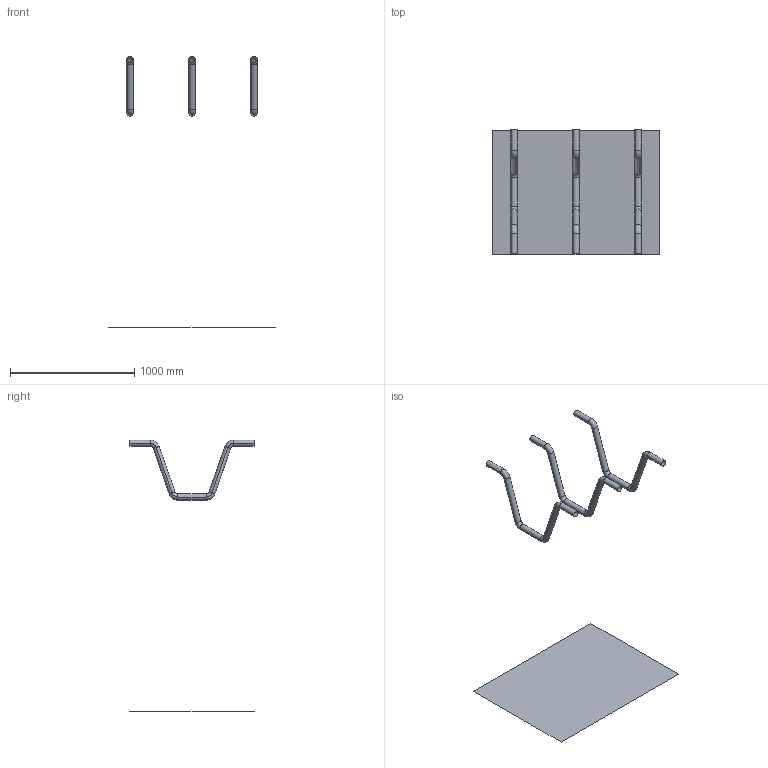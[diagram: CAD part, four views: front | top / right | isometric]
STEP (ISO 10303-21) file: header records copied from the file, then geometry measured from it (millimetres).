
FILE_DESCRIPTION(('CATIA V5 STEP Exchange'),'2;1');
FILE_NAME('C:\_Andres\UNIVERSIDAD\IQS\ASIGNATURAS\DAO\EXF\EXF-16172c\2inicio\Sastre_Cabrerizo_Ej08_v34.stp','2017-03-05T21:54:58+00:00',('none'),('none'),'CATIA Version 5-6 Release 2014 SP1 HF18','CATIA V5 STEP AP203','none');
FILE_SCHEMA(('CONFIG_CONTROL_DESIGN'));
Length unit declared in the file: millimetre
Products named in the file (1): Sastre_Cabrerizo_Ej08_v34
Bounding box: 1340 x 1000 x 2191 mm (x, y, z)
Surface area: 2085037.3 mm2 (no closed solid volume)
Topology: 0 solids, 4 shells, 55 faces, 118 edges, 64 vertices
Faces by surface type: cylinder 30, torus 24, plane 1
Entity records: 1283 total; most frequent: ORIENTED_EDGE 220, CARTESIAN_POINT 208, DIRECTION 168, EDGE_CURVE 118, AXIS2_PLACEMENT_3D 110, CIRCLE 84, VERTEX_POINT 64, ADVANCED_FACE 55
